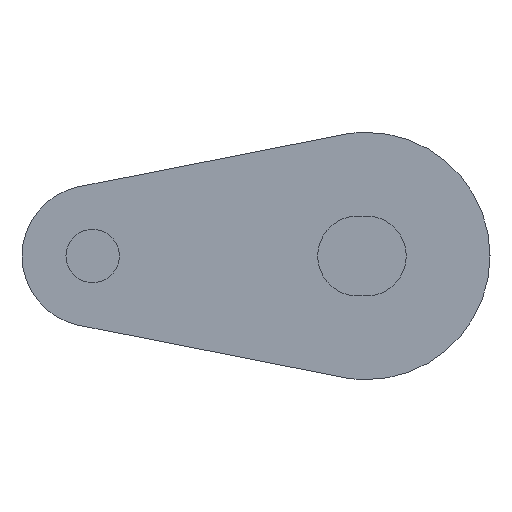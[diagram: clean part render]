
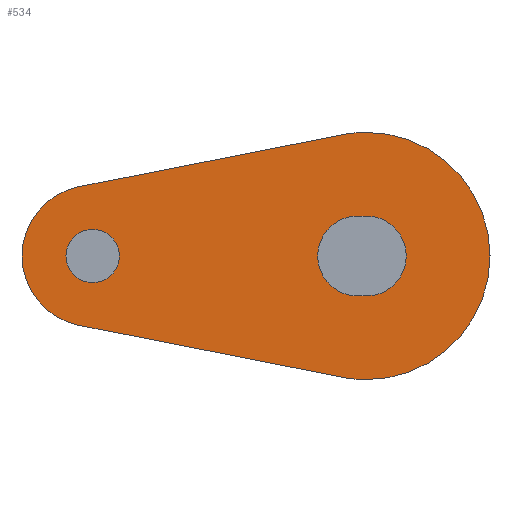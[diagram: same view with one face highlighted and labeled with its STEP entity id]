
A CAD part, left-side view. The second image highlights one B-rep face of the part: STEP entity #534.
In plain terms, the highlighted planar face has unit normal (-1, 0, 0).
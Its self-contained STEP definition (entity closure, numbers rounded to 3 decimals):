
#102 = ORIENTED_EDGE ( 'NONE', *, *, #440, .F. ) ;
#104 = ORIENTED_EDGE ( 'NONE', *, *, #466, .F. ) ;
#111 = ORIENTED_EDGE ( 'NONE', *, *, #404, .T. ) ;
#150 = ORIENTED_EDGE ( 'NONE', *, *, #392, .F. ) ;
#156 = ORIENTED_EDGE ( 'NONE', *, *, #444, .T. ) ;
#157 = ORIENTED_EDGE ( 'NONE', *, *, #431, .T. ) ;
#160 = ORIENTED_EDGE ( 'NONE', *, *, #432, .T. ) ;
#167 = ORIENTED_EDGE ( 'NONE', *, *, #436, .T. ) ;
#168 = ORIENTED_EDGE ( 'NONE', *, *, #459, .F. ) ;
#169 = ORIENTED_EDGE ( 'NONE', *, *, #439, .T. ) ;
#171 = ORIENTED_EDGE ( 'NONE', *, *, #424, .F. ) ;
#174 = EDGE_LOOP ( 'NONE', ( #160, #169 ) ) ;
#197 = EDGE_LOOP ( 'NONE', ( #171, #168, #104, #150, #1040, #102 ) ) ;
#204 = EDGE_LOOP ( 'NONE', ( #111, #167, #156, #157 ) ) ;
#258 = CARTESIAN_POINT ( 'NONE',  ( -207.5, 0., -2.26 ) ) ;
#260 = CARTESIAN_POINT ( 'NONE',  ( -207.5, 15.5, 1.51 ) ) ;
#265 = CARTESIAN_POINT ( 'NONE',  ( -207.5, 0., 7. ) ) ;
#268 = CARTESIAN_POINT ( 'NONE',  ( -207.5, 0.5, 2.26 ) ) ;
#270 = CARTESIAN_POINT ( 'NONE',  ( -207.5, 15.5, -1.51 ) ) ;
#271 = CARTESIAN_POINT ( 'NONE',  ( -207.5, 0., 2.26 ) ) ;
#316 = CARTESIAN_POINT ( 'NONE',  ( -207.5, 16.274, -3.924 ) ) ;
#337 = CARTESIAN_POINT ( 'NONE',  ( -207.5, 1.355, -6.868 ) ) ;
#341 = CARTESIAN_POINT ( 'NONE',  ( -207.5, 16.274, 3.924 ) ) ;
#347 = CARTESIAN_POINT ( 'NONE',  ( -207.5, 0.5, -2.26 ) ) ;
#357 = CARTESIAN_POINT ( 'NONE',  ( -207.5, 1.355, 6.868 ) ) ;
#358 = CARTESIAN_POINT ( 'NONE',  ( -207.5, 0., -7. ) ) ;
#380 = AXIS2_PLACEMENT_3D ( 'NONE', #638, #650, #639 ) ;
#385 = AXIS2_PLACEMENT_3D ( 'NONE', #755, #759, #740 ) ;
#392 = EDGE_CURVE ( 'NONE', #859, #735, #969, .T. ) ;
#404 = EDGE_CURVE ( 'NONE', #714, #864, #956, .T. ) ;
#405 = AXIS2_PLACEMENT_3D ( 'NONE', #812, #785, #810 ) ;
#411 = AXIS2_PLACEMENT_3D ( 'NONE', #584, #591, #592 ) ;
#422 = AXIS2_PLACEMENT_3D ( 'NONE', #804, #850, #797 ) ;
#423 = AXIS2_PLACEMENT_3D ( 'NONE', #776, #670, #671 ) ;
#424 = EDGE_CURVE ( 'NONE', #685, #691, #931, .T. ) ;
#427 = AXIS2_PLACEMENT_3D ( 'NONE', #725, #821, #856 ) ;
#431 = EDGE_CURVE ( 'NONE', #716, #714, #1027, .T. ) ;
#432 = EDGE_CURVE ( 'NONE', #865, #837, #1024, .T. ) ;
#436 = EDGE_CURVE ( 'NONE', #864, #866, #1019, .T. ) ;
#439 = EDGE_CURVE ( 'NONE', #837, #865, #1010, .T. ) ;
#440 = EDGE_CURVE ( 'NONE', #691, #736, #1015, .T. ) ;
#444 = EDGE_CURVE ( 'NONE', #866, #716, #1002, .T. ) ;
#459 = EDGE_CURVE ( 'NONE', #694, #685, #996, .T. ) ;
#466 = EDGE_CURVE ( 'NONE', #735, #694, #983, .T. ) ;
#472 = AXIS2_PLACEMENT_3D ( 'NONE', #801, #815, #799 ) ;
#502 = EDGE_CURVE ( 'NONE', #736, #859, #946, .T. ) ;
#524 = AXIS2_PLACEMENT_3D ( 'NONE', #772, #764, #788 ) ;
#534 = ADVANCED_FACE ( 'NONE', ( #921, #918, #916 ), #640, .T. ) ;
#584 = CARTESIAN_POINT ( 'NONE',  ( -207.5, 0., 0. ) ) ;
#591 = DIRECTION ( 'NONE',  ( 1., 0., 0. ) ) ;
#592 = DIRECTION ( 'NONE',  ( 0., 0., -1. ) ) ;
#638 = CARTESIAN_POINT ( 'NONE',  ( -207.5, 15.5, 0. ) ) ;
#639 = DIRECTION ( 'NONE',  ( 0., 0., -1. ) ) ;
#640 = PLANE ( 'NONE',  #380 ) ;
#650 = DIRECTION ( 'NONE',  ( -1., 0., 0. ) ) ;
#670 = DIRECTION ( 'NONE',  ( 1., 0., 0. ) ) ;
#671 = DIRECTION ( 'NONE',  ( 0., 0., -1. ) ) ;
#685 = VERTEX_POINT ( 'NONE', #316 ) ;
#691 = VERTEX_POINT ( 'NONE', #341 ) ;
#694 = VERTEX_POINT ( 'NONE', #337 ) ;
#714 = VERTEX_POINT ( 'NONE', #347 ) ;
#716 = VERTEX_POINT ( 'NONE', #258 ) ;
#725 = CARTESIAN_POINT ( 'NONE',  ( -207.5, 0.5, 0. ) ) ;
#735 = VERTEX_POINT ( 'NONE', #358 ) ;
#736 = VERTEX_POINT ( 'NONE', #357 ) ;
#740 = DIRECTION ( 'NONE',  ( 0., 0., -1. ) ) ;
#755 = CARTESIAN_POINT ( 'NONE',  ( -207.5, 0., 0. ) ) ;
#759 = DIRECTION ( 'NONE',  ( 1., 0., 0. ) ) ;
#762 = CARTESIAN_POINT ( 'NONE',  ( -207.5, 0.5, 2.26 ) ) ;
#764 = DIRECTION ( 'NONE',  ( 1., 0., 0. ) ) ;
#765 = DIRECTION ( 'NONE',  ( 0., 1., 0. ) ) ;
#772 = CARTESIAN_POINT ( 'NONE',  ( -207.5, 15.5, 0. ) ) ;
#776 = CARTESIAN_POINT ( 'NONE',  ( -207.5, 0., 0. ) ) ;
#779 = CARTESIAN_POINT ( 'NONE',  ( -207.5, 1.355, -6.868 ) ) ;
#780 = DIRECTION ( 'NONE',  ( 0., 0.981, 0.194 ) ) ;
#784 = CARTESIAN_POINT ( 'NONE',  ( -207.5, 0.5, -2.26 ) ) ;
#785 = DIRECTION ( 'NONE',  ( 1., 0., 0. ) ) ;
#788 = DIRECTION ( 'NONE',  ( 0., 0., -1. ) ) ;
#797 = DIRECTION ( 'NONE',  ( 0., 0., -1. ) ) ;
#798 = DIRECTION ( 'NONE',  ( 0., -0.981, 0.194 ) ) ;
#799 = DIRECTION ( 'NONE',  ( 0., 0., -1. ) ) ;
#801 = CARTESIAN_POINT ( 'NONE',  ( -207.5, 15.5, 0. ) ) ;
#804 = CARTESIAN_POINT ( 'NONE',  ( -207.5, 15.5, 0. ) ) ;
#810 = DIRECTION ( 'NONE',  ( 0., 0., -1. ) ) ;
#812 = CARTESIAN_POINT ( 'NONE',  ( -207.5, 0., 0. ) ) ;
#814 = CARTESIAN_POINT ( 'NONE',  ( -207.5, 16.274, 3.924 ) ) ;
#815 = DIRECTION ( 'NONE',  ( 1., 0., 0. ) ) ;
#817 = DIRECTION ( 'NONE',  ( 0., -1., 0. ) ) ;
#821 = DIRECTION ( 'NONE',  ( 1., 0., 0. ) ) ;
#837 = VERTEX_POINT ( 'NONE', #260 ) ;
#850 = DIRECTION ( 'NONE',  ( 1., 0., 0. ) ) ;
#856 = DIRECTION ( 'NONE',  ( 0., 0., -1. ) ) ;
#859 = VERTEX_POINT ( 'NONE', #265 ) ;
#864 = VERTEX_POINT ( 'NONE', #268 ) ;
#865 = VERTEX_POINT ( 'NONE', #270 ) ;
#866 = VERTEX_POINT ( 'NONE', #271 ) ;
#901 = VECTOR ( 'NONE', #765, 1000. ) ;
#916 = FACE_OUTER_BOUND ( 'NONE', #197, .T. ) ;
#918 = FACE_BOUND ( 'NONE', #174, .T. ) ;
#921 = FACE_BOUND ( 'NONE', #204, .T. ) ;
#931 = CIRCLE ( 'NONE', #422, 4. ) ;
#945 = VECTOR ( 'NONE', #798, 1000. ) ;
#946 = CIRCLE ( 'NONE', #411, 7. ) ;
#956 = CIRCLE ( 'NONE', #427, 2.26 ) ;
#969 = CIRCLE ( 'NONE', #385, 7. ) ;
#983 = CIRCLE ( 'NONE', #423, 7. ) ;
#991 = VECTOR ( 'NONE', #780, 1000. ) ;
#996 = LINE ( 'NONE', #779, #991 ) ;
#1002 = CIRCLE ( 'NONE', #405, 2.26 ) ;
#1010 = CIRCLE ( 'NONE', #472, 1.51 ) ;
#1015 = LINE ( 'NONE', #814, #945 ) ;
#1019 = LINE ( 'NONE', #762, #1029 ) ;
#1024 = CIRCLE ( 'NONE', #524, 1.51 ) ;
#1027 = LINE ( 'NONE', #784, #901 ) ;
#1029 = VECTOR ( 'NONE', #817, 1000. ) ;
#1040 = ORIENTED_EDGE ( 'NONE', *, *, #502, .F. ) ;
